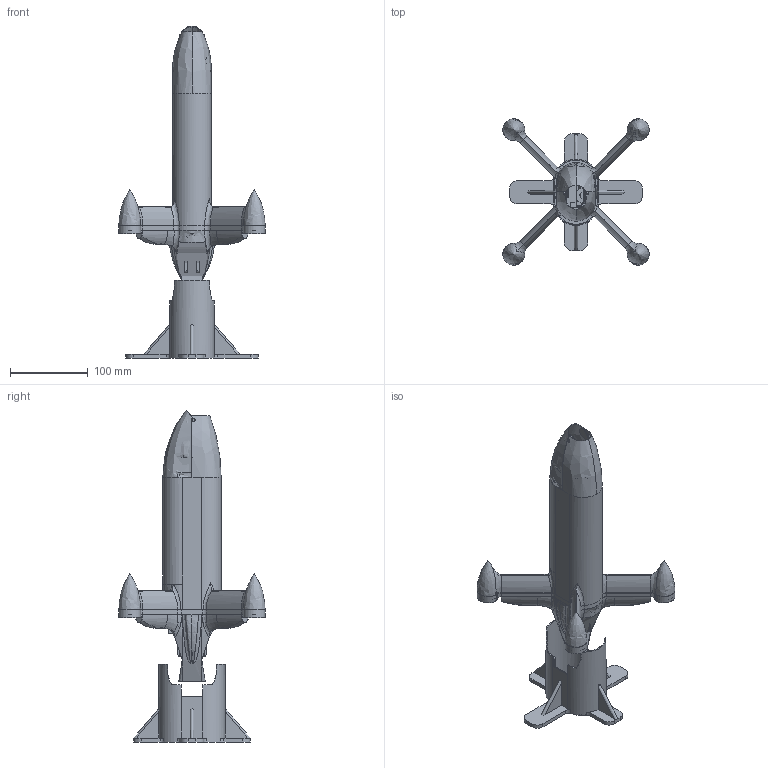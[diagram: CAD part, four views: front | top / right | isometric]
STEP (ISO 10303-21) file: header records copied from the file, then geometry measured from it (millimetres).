
FILE_DESCRIPTION(/* description */ ('','CAx-IF Rec.Pracs.---Representation and Presentation of Product Manufacturing Information (PMI)---4.0---2014-10-13'),/* implementation_level */ '2;1');
FILE_NAME(/* name */ '5 Inch Speed Design.step',/* time_stamp */ '2025-03-15T17:00:32+01:00',/* author */ (''),/* organization */ (''),/* preprocessor_version */ 'ST-DEVELOPER v20',/* originating_system */ 'Autodesk Translation Framework v13.20.0.188',/* authorisation */ '');
FILE_SCHEMA (('AP242_MANAGED_MODEL_BASED_3D_ENGINEERING_MIM_LF { 1 0 10303 442 1 1 4 }'));
Length unit declared in the file: millimetre
Products named in the file (21): Aero 5 Inch V1.1; Front Shell; Cover; Main Body; Component67; Component70; Component82; Component93; Mutter; Motor Cover; Vista Mount ; ESC Mount (1); Camera Mount R; Camera Mount L; Servo Mount; Rear Shell (2); Mount Rear Part; Xt60M Mount; Launcher; Rear Mount; Carbon Frame
Assembly tree (25 placements, depth 5):
  Aero 5 Inch V1.1
    Front Shell
      Cover
      Main Body
        Component67
        Component70
        Component82
          Component93
    Carbon Frame  x2
    ESC Mount (1)  x2
    Motor Cover  x4
    Mutter
    Vista Mount 
    Camera Mount R
    Camera Mount L
    Servo Mount
    Rear Shell (2)
    Mount Rear Part
    Xt60M Mount
    Launcher
    Rear Mount
Bounding box: 187.99 x 187.99 x 426.71 mm (x, y, z)
Volume: 314772.4 mm3; surface area: 370228.4 mm2
Topology: 20 solids, 20 shells, 1416 faces, 4117 edges, 2730 vertices
Faces by surface type: cylinder 647, plane 496, bspline 237, torus 36
Full cylindrical faces by diameter (mm): 1.1 x4, 1.5 x1, 1.8 x1, 2.1 x9, 2.6 x4, 3 x1, 3.1 x28, 3.2 x4, 4 x2, 6 x8, 12 x1, 25 x1, 27 x2
Entity records: 110312 total; most frequent: CARTESIAN_POINT 80827, ORIENTED_EDGE 6610, DIRECTION 5280, EDGE_CURVE 3305, VERTEX_POINT 2198, AXIS2_PLACEMENT_3D 1932, LINE 1416, VECTOR 1416
